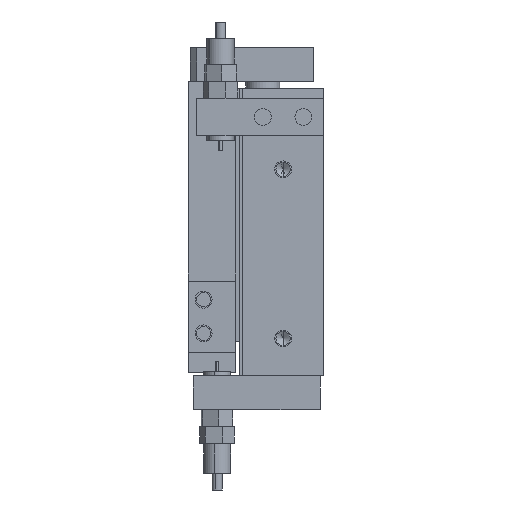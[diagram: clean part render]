
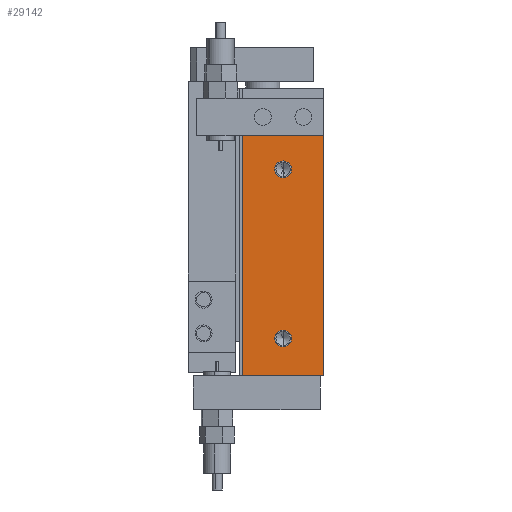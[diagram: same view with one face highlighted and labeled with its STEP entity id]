
A CAD part, left-side view. The second image highlights one B-rep face of the part: STEP entity #29142.
In plain terms, the highlighted planar face has unit normal (-1, 0, 0) as drawn and (1, 0, 0) by its records, which use the part's own axes.
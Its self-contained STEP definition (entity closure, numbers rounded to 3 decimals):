
#7391 = CARTESIAN_POINT ( 'NONE',  ( 62., 9., 26.5 ) ) ;
#7428 = AXIS2_PLACEMENT_3D ( 'NONE', #7473, #7507, #7506 ) ;
#7464 = CARTESIAN_POINT ( 'NONE',  ( 62., 9., 71.5 ) ) ;
#7468 = CIRCLE ( 'NONE', #7428, 2.5 ) ;
#7473 = CARTESIAN_POINT ( 'NONE',  ( 62., 9., 74. ) ) ;
#7487 = CARTESIAN_POINT ( 'NONE',  ( 62., 9., 24. ) ) ;
#7495 = CIRCLE ( 'NONE', #7544, 2.5 ) ;
#7504 = CARTESIAN_POINT ( 'NONE',  ( 62., 9., 76.5 ) ) ;
#7506 = DIRECTION ( 'NONE',  ( 0., 0., -1. ) ) ;
#7507 = DIRECTION ( 'NONE',  ( 1., 0., 0. ) ) ;
#7529 = CARTESIAN_POINT ( 'NONE',  ( 62., 9., 21.5 ) ) ;
#7542 = DIRECTION ( 'NONE',  ( 0., 0., -1. ) ) ;
#7543 = DIRECTION ( 'NONE',  ( 1., 0., 0. ) ) ;
#7544 = AXIS2_PLACEMENT_3D ( 'NONE', #7487, #7543, #7542 ) ;
#7681 = CARTESIAN_POINT ( 'NONE',  ( 62., -3., 85. ) ) ;
#7689 = CARTESIAN_POINT ( 'NONE',  ( 62., 21., 85. ) ) ;
#7957 = DIRECTION ( 'NONE',  ( 0., 0., -1. ) ) ;
#7958 = VECTOR ( 'NONE', #7957, 1000. ) ;
#7959 = CARTESIAN_POINT ( 'NONE',  ( 62., -3., 85. ) ) ;
#7972 = LINE ( 'NONE', #7959, #7958 ) ;
#8018 = CARTESIAN_POINT ( 'NONE',  ( 62., -3., 14. ) ) ;
#8027 = CARTESIAN_POINT ( 'NONE',  ( 62., 21., 14. ) ) ;
#10833 = FACE_BOUND ( 'NONE', #20356, .T. ) ;
#10891 = AXIS2_PLACEMENT_3D ( 'NONE', #10936, #10933, #10930 ) ;
#10926 = PLANE ( 'NONE',  #10927 ) ;
#10927 = AXIS2_PLACEMENT_3D ( 'NONE', #10986, #10931, #11059 ) ;
#10928 = FACE_OUTER_BOUND ( 'NONE', #29160, .T. ) ;
#10929 = FACE_BOUND ( 'NONE', #28938, .T. ) ;
#10930 = DIRECTION ( 'NONE',  ( 0., 0., -1. ) ) ;
#10931 = DIRECTION ( 'NONE',  ( -1., 0., 0. ) ) ;
#10932 = LINE ( 'NONE', #11040, #11039 ) ;
#10933 = DIRECTION ( 'NONE',  ( 1., 0., 0. ) ) ;
#10934 = CIRCLE ( 'NONE', #10891, 2.5 ) ;
#10936 = CARTESIAN_POINT ( 'NONE',  ( 62., 9., 74. ) ) ;
#10986 = CARTESIAN_POINT ( 'NONE',  ( 62., -3., 85. ) ) ;
#11030 = DIRECTION ( 'NONE',  ( 0., 0., -1. ) ) ;
#11031 = VECTOR ( 'NONE', #11030, 1000. ) ;
#11033 = CARTESIAN_POINT ( 'NONE',  ( 62., 21., 85. ) ) ;
#11034 = LINE ( 'NONE', #11033, #11031 ) ;
#11038 = DIRECTION ( 'NONE',  ( 0., 1., 0. ) ) ;
#11039 = VECTOR ( 'NONE', #11038, 1000. ) ;
#11040 = CARTESIAN_POINT ( 'NONE',  ( 62., -3., 14. ) ) ;
#11042 = DIRECTION ( 'NONE',  ( 0., 0., -1. ) ) ;
#11043 = DIRECTION ( 'NONE',  ( 1., 0., 0. ) ) ;
#11045 = CARTESIAN_POINT ( 'NONE',  ( 62., 9., 24. ) ) ;
#11046 = CIRCLE ( 'NONE', #11060, 2.5 ) ;
#11059 = DIRECTION ( 'NONE',  ( 0., 0., 1. ) ) ;
#11060 = AXIS2_PLACEMENT_3D ( 'NONE', #11045, #11043, #11042 ) ;
#12684 = DIRECTION ( 'NONE',  ( 0., 1., 0. ) ) ;
#12685 = VECTOR ( 'NONE', #12684, 1000. ) ;
#12686 = CARTESIAN_POINT ( 'NONE',  ( 62., -3., 85. ) ) ;
#12687 = LINE ( 'NONE', #12686, #12685 ) ;
#19661 = VERTEX_POINT ( 'NONE', #7391 ) ;
#19691 = EDGE_CURVE ( 'NONE', #19695, #19694, #7468, .T. ) ;
#19694 = VERTEX_POINT ( 'NONE', #7464 ) ;
#19695 = VERTEX_POINT ( 'NONE', #7504 ) ;
#19707 = EDGE_CURVE ( 'NONE', #19661, #19723, #7495, .T. ) ;
#19723 = VERTEX_POINT ( 'NONE', #7529 ) ;
#19809 = VERTEX_POINT ( 'NONE', #7681 ) ;
#19844 = VERTEX_POINT ( 'NONE', #7689 ) ;
#20315 = EDGE_CURVE ( 'NONE', #19809, #20335, #7972, .T. ) ;
#20327 = ORIENTED_EDGE ( 'NONE', *, *, #29114, .F. ) ;
#20335 = VERTEX_POINT ( 'NONE', #8018 ) ;
#20356 = EDGE_LOOP ( 'NONE', ( #20327, #29138 ) ) ;
#20379 = VERTEX_POINT ( 'NONE', #8027 ) ;
#28938 = EDGE_LOOP ( 'NONE', ( #29789, #29164 ) ) ;
#28946 = ORIENTED_EDGE ( 'NONE', *, *, #29178, .T. ) ;
#28959 = ORIENTED_EDGE ( 'NONE', *, *, #29180, .F. ) ;
#28968 = ORIENTED_EDGE ( 'NONE', *, *, #20315, .T. ) ;
#29114 = EDGE_CURVE ( 'NONE', #19694, #19695, #10934, .T. ) ;
#29138 = ORIENTED_EDGE ( 'NONE', *, *, #19691, .F. ) ;
#29142 = ADVANCED_FACE ( 'NONE', ( #10833, #10929, #10928 ), #10926, .F. ) ;
#29145 = ORIENTED_EDGE ( 'NONE', *, *, #30208, .F. ) ;
#29160 = EDGE_LOOP ( 'NONE', ( #28946, #28959, #29145, #28968 ) ) ;
#29164 = ORIENTED_EDGE ( 'NONE', *, *, #19707, .F. ) ;
#29172 = EDGE_CURVE ( 'NONE', #19723, #19661, #11046, .T. ) ;
#29178 = EDGE_CURVE ( 'NONE', #20335, #20379, #10932, .T. ) ;
#29180 = EDGE_CURVE ( 'NONE', #19844, #20379, #11034, .T. ) ;
#29789 = ORIENTED_EDGE ( 'NONE', *, *, #29172, .F. ) ;
#30208 = EDGE_CURVE ( 'NONE', #19809, #19844, #12687, .T. ) ;
